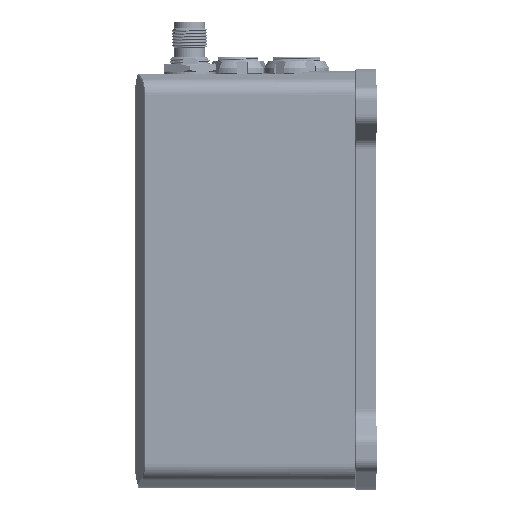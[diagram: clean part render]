
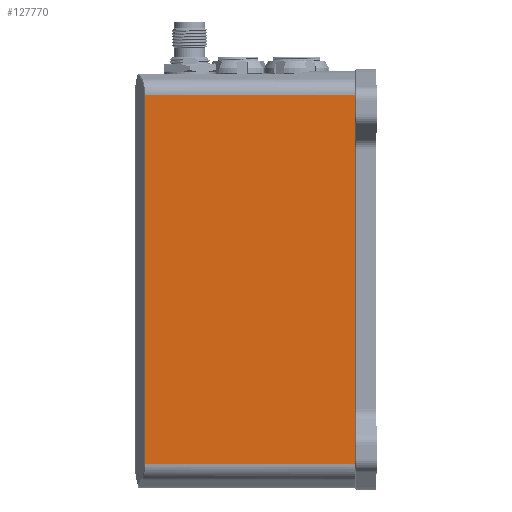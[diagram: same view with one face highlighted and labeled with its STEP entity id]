
A CAD part, left-side view. The second image highlights one B-rep face of the part: STEP entity #127770.
In plain terms, the highlighted planar face has unit normal (-1, 0, 0).
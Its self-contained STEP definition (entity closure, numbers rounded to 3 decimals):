
#1041 = EDGE_CURVE ( 'NONE', #3466, #225626, #167436, .T. ) ;
#3466 = VERTEX_POINT ( 'NONE', #232299 ) ;
#20263 = DIRECTION ( 'NONE',  ( 0., 0., -1. ) ) ;
#29165 = LINE ( 'NONE', #205741, #87259 ) ;
#31420 = CARTESIAN_POINT ( 'NONE',  ( -41., 71.8, -79.004 ) ) ;
#33445 = CARTESIAN_POINT ( 'NONE',  ( -41., 75., 35.004 ) ) ;
#35070 = ORIENTED_EDGE ( 'NONE', *, *, #165910, .T. ) ;
#52334 = VECTOR ( 'NONE', #95032, 1000. ) ;
#53053 = DIRECTION ( 'NONE',  ( 0., 0., 1. ) ) ;
#55412 = DIRECTION ( 'NONE',  ( 0., -1., 0. ) ) ;
#59171 = LINE ( 'NONE', #181981, #52334 ) ;
#62349 = EDGE_LOOP ( 'NONE', ( #145764, #270535, #35070, #230330 ) ) ;
#69393 = CARTESIAN_POINT ( 'NONE',  ( -41., 75., -79.004 ) ) ;
#85113 = CARTESIAN_POINT ( 'NONE',  ( -41., 7., 35.004 ) ) ;
#86469 = LINE ( 'NONE', #33445, #144490 ) ;
#87259 = VECTOR ( 'NONE', #53053, 1000. ) ;
#95032 = DIRECTION ( 'NONE',  ( 0., 0., 1. ) ) ;
#127770 = ADVANCED_FACE ( 'NONE', ( #266883 ), #128210, .F. ) ;
#128210 = PLANE ( 'NONE',  #234581 ) ;
#144490 = VECTOR ( 'NONE', #55412, 1000. ) ;
#145764 = ORIENTED_EDGE ( 'NONE', *, *, #202730, .F. ) ;
#151134 = DIRECTION ( 'NONE',  ( 1., 0., 0. ) ) ;
#165910 = EDGE_CURVE ( 'NONE', #3466, #182654, #59171, .T. ) ;
#167436 = LINE ( 'NONE', #69393, #225445 ) ;
#181981 = CARTESIAN_POINT ( 'NONE',  ( -41., 7., 25. ) ) ;
#182654 = VERTEX_POINT ( 'NONE', #85113 ) ;
#202730 = EDGE_CURVE ( 'NONE', #225626, #239136, #29165, .T. ) ;
#205741 = CARTESIAN_POINT ( 'NONE',  ( -41., 71.8, -79.004 ) ) ;
#225445 = VECTOR ( 'NONE', #243932, 1000. ) ;
#225626 = VERTEX_POINT ( 'NONE', #31420 ) ;
#230330 = ORIENTED_EDGE ( 'NONE', *, *, #279446, .F. ) ;
#232299 = CARTESIAN_POINT ( 'NONE',  ( -41., 7., -79.004 ) ) ;
#234581 = AXIS2_PLACEMENT_3D ( 'NONE', #281730, #151134, #20263 ) ;
#239136 = VERTEX_POINT ( 'NONE', #247892 ) ;
#243932 = DIRECTION ( 'NONE',  ( 0., 1., 0. ) ) ;
#247892 = CARTESIAN_POINT ( 'NONE',  ( -41., 71.8, 35.004 ) ) ;
#266883 = FACE_OUTER_BOUND ( 'NONE', #62349, .T. ) ;
#270535 = ORIENTED_EDGE ( 'NONE', *, *, #1041, .F. ) ;
#279446 = EDGE_CURVE ( 'NONE', #239136, #182654, #86469, .T. ) ;
#281730 = CARTESIAN_POINT ( 'NONE',  ( -41., 75., -79.004 ) ) ;
